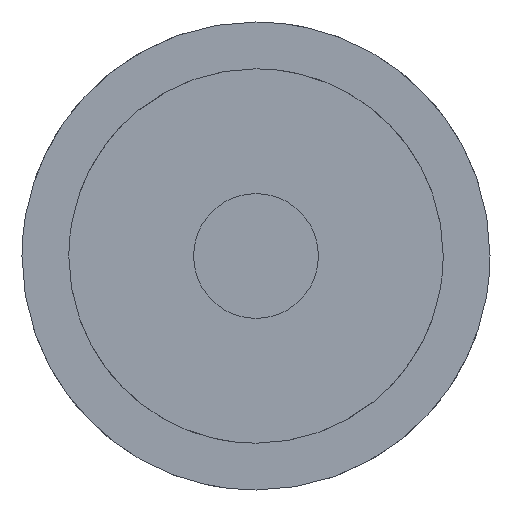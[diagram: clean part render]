
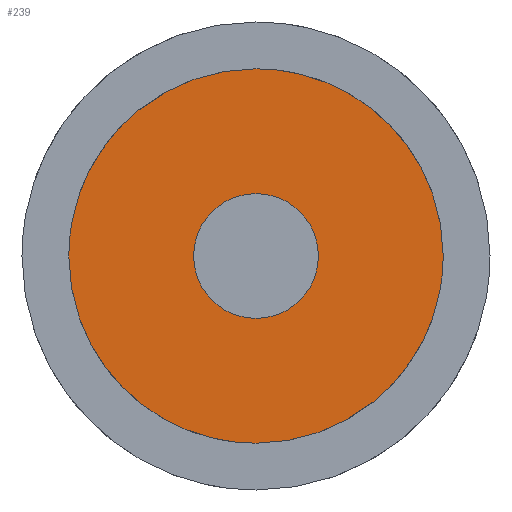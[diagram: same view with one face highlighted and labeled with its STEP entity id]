
A CAD part, front view. The second image highlights one B-rep face of the part: STEP entity #239.
In plain terms, the highlighted planar face has unit normal (0, -1, 0).
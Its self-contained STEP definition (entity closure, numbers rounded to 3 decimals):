
#63=CARTESIAN_POINT('Vertex',(0.,-217.,6.)) ;
#66=CARTESIAN_POINT('Axis2P3D Location',(0.,-217.,0.)) ;
#70=CARTESIAN_POINT('Vertex',(-6.,-217.,0.)) ;
#73=CARTESIAN_POINT('Axis2P3D Location',(0.,-217.,0.)) ;
#77=CARTESIAN_POINT('Vertex',(0.,-217.,-6.)) ;
#113=CARTESIAN_POINT('Axis2P3D Location',(0.,-217.,0.)) ;
#117=CARTESIAN_POINT('Vertex',(6.,-217.,0.)) ;
#120=CARTESIAN_POINT('Axis2P3D Location',(0.,-217.,0.)) ;
#146=CARTESIAN_POINT('Axis2P3D Location',(18.,-217.,0.)) ;
#152=CARTESIAN_POINT('Control Point',(18.,-217.,0.)) ;
#153=CARTESIAN_POINT('Control Point',(18.,-217.,1.663)) ;
#154=CARTESIAN_POINT('Control Point',(17.808,-217.,3.326)) ;
#155=CARTESIAN_POINT('Control Point',(17.424,-217.,4.959)) ;
#156=CARTESIAN_POINT('Control Point',(16.286,-217.,8.107)) ;
#157=CARTESIAN_POINT('Control Point',(14.46,-217.,10.913)) ;
#158=CARTESIAN_POINT('Control Point',(13.388,-217.,12.204)) ;
#159=CARTESIAN_POINT('Control Point',(10.967,-217.,14.515)) ;
#160=CARTESIAN_POINT('Control Point',(8.082,-217.,16.213)) ;
#161=CARTESIAN_POINT('Control Point',(6.547,-217.,16.891)) ;
#162=CARTESIAN_POINT('Control Point',(4.307,-217.,17.585)) ;
#163=CARTESIAN_POINT('Control Point',(1.998,-217.,17.907)) ;
#164=CARTESIAN_POINT('Control Point',(1.333,-217.,17.969)) ;
#165=CARTESIAN_POINT('Control Point',(0.667,-217.,18.)) ;
#166=CARTESIAN_POINT('Control Point',(0.,-217.,18.)) ;
#167=CARTESIAN_POINT('Vertex',(18.,-217.,0.)) ;
#169=CARTESIAN_POINT('Vertex',(0.,-217.,18.)) ;
#173=CARTESIAN_POINT('Control Point',(0.,-217.,18.)) ;
#174=CARTESIAN_POINT('Control Point',(-0.996,-217.,18.)) ;
#175=CARTESIAN_POINT('Control Point',(-1.992,-217.,17.931)) ;
#176=CARTESIAN_POINT('Control Point',(-2.982,-217.,17.793)) ;
#177=CARTESIAN_POINT('Control Point',(-5.59,-217.,17.244)) ;
#178=CARTESIAN_POINT('Control Point',(-8.064,-217.,16.222)) ;
#179=CARTESIAN_POINT('Control Point',(-9.53,-217.,15.406)) ;
#180=CARTESIAN_POINT('Control Point',(-12.248,-217.,13.451)) ;
#181=CARTESIAN_POINT('Control Point',(-14.448,-217.,10.928)) ;
#182=CARTESIAN_POINT('Control Point',(-15.397,-217.,9.545)) ;
#183=CARTESIAN_POINT('Control Point',(-16.804,-217.,6.877)) ;
#184=CARTESIAN_POINT('Control Point',(-17.63,-217.,3.984)) ;
#185=CARTESIAN_POINT('Control Point',(-17.877,-217.,2.666)) ;
#186=CARTESIAN_POINT('Control Point',(-18.,-217.,1.333)) ;
#187=CARTESIAN_POINT('Control Point',(-18.,-217.,0.)) ;
#188=CARTESIAN_POINT('Vertex',(-18.,-217.,0.)) ;
#192=CARTESIAN_POINT('Control Point',(-18.,-217.,0.)) ;
#193=CARTESIAN_POINT('Control Point',(-18.,-217.,-1.663)) ;
#194=CARTESIAN_POINT('Control Point',(-17.808,-217.,-3.326)) ;
#195=CARTESIAN_POINT('Control Point',(-17.424,-217.,-4.959)) ;
#196=CARTESIAN_POINT('Control Point',(-16.286,-217.,-8.107)) ;
#197=CARTESIAN_POINT('Control Point',(-14.46,-217.,-10.913)) ;
#198=CARTESIAN_POINT('Control Point',(-13.388,-217.,-12.204)) ;
#199=CARTESIAN_POINT('Control Point',(-10.967,-217.,-14.515)) ;
#200=CARTESIAN_POINT('Control Point',(-8.082,-217.,-16.213)) ;
#201=CARTESIAN_POINT('Control Point',(-6.547,-217.,-16.891)) ;
#202=CARTESIAN_POINT('Control Point',(-4.307,-217.,-17.585)) ;
#203=CARTESIAN_POINT('Control Point',(-1.998,-217.,-17.907)) ;
#204=CARTESIAN_POINT('Control Point',(-1.333,-217.,-17.969)) ;
#205=CARTESIAN_POINT('Control Point',(-0.667,-217.,-18.)) ;
#206=CARTESIAN_POINT('Control Point',(0.,-217.,-18.)) ;
#207=CARTESIAN_POINT('Vertex',(0.,-217.,-18.)) ;
#211=CARTESIAN_POINT('Control Point',(0.,-217.,-18.)) ;
#212=CARTESIAN_POINT('Control Point',(0.996,-217.,-18.)) ;
#213=CARTESIAN_POINT('Control Point',(1.992,-217.,-17.931)) ;
#214=CARTESIAN_POINT('Control Point',(2.982,-217.,-17.793)) ;
#215=CARTESIAN_POINT('Control Point',(5.59,-217.,-17.244)) ;
#216=CARTESIAN_POINT('Control Point',(8.064,-217.,-16.222)) ;
#217=CARTESIAN_POINT('Control Point',(9.53,-217.,-15.406)) ;
#218=CARTESIAN_POINT('Control Point',(12.248,-217.,-13.451)) ;
#219=CARTESIAN_POINT('Control Point',(14.448,-217.,-10.928)) ;
#220=CARTESIAN_POINT('Control Point',(15.397,-217.,-9.545)) ;
#221=CARTESIAN_POINT('Control Point',(16.804,-217.,-6.877)) ;
#222=CARTESIAN_POINT('Control Point',(17.63,-217.,-3.984)) ;
#223=CARTESIAN_POINT('Control Point',(17.877,-217.,-2.666)) ;
#224=CARTESIAN_POINT('Control Point',(18.,-217.,-1.333)) ;
#225=CARTESIAN_POINT('Control Point',(18.,-217.,0.)) ;
#67=DIRECTION('Axis2P3D Direction',(0.,1.,0.)) ;
#74=DIRECTION('Axis2P3D Direction',(0.,1.,0.)) ;
#114=DIRECTION('Axis2P3D Direction',(0.,1.,0.)) ;
#121=DIRECTION('Axis2P3D Direction',(0.,1.,0.)) ;
#147=DIRECTION('Axis2P3D Direction',(0.,1.,0.)) ;
#148=DIRECTION('Axis2P3D XDirection',(0.,-0.,1.)) ;
#68=AXIS2_PLACEMENT_3D('Circle Axis2P3D',#66,#67,$) ;
#75=AXIS2_PLACEMENT_3D('Circle Axis2P3D',#73,#74,$) ;
#115=AXIS2_PLACEMENT_3D('Circle Axis2P3D',#113,#114,$) ;
#122=AXIS2_PLACEMENT_3D('Circle Axis2P3D',#120,#121,$) ;
#149=AXIS2_PLACEMENT_3D('Plane Axis2P3D',#146,#147,#148) ;
#228=ORIENTED_EDGE('',*,*,#171,.T.) ;
#229=ORIENTED_EDGE('',*,*,#190,.T.) ;
#230=ORIENTED_EDGE('',*,*,#209,.T.) ;
#231=ORIENTED_EDGE('',*,*,#226,.T.) ;
#234=ORIENTED_EDGE('',*,*,#119,.F.) ;
#235=ORIENTED_EDGE('',*,*,#79,.F.) ;
#236=ORIENTED_EDGE('',*,*,#72,.F.) ;
#237=ORIENTED_EDGE('',*,*,#124,.F.) ;
#238=FACE_BOUND('',#233,.T.) ;
#239=ADVANCED_FACE('D995-2',(#232,#238),#150,.F.) ;
#151=B_SPLINE_CURVE_WITH_KNOTS('',5,(#152,#153,#154,#155,#156,#157,#158,#159,#160,#161,#162,#163,#164,#165,#166),.UNSPECIFIED.,.F.,.U.,(6,3,3,3,6),(0.,11.757,23.515,35.272,39.986),.UNSPECIFIED.) ;
#172=B_SPLINE_CURVE_WITH_KNOTS('',5,(#173,#174,#175,#176,#177,#178,#179,#180,#181,#182,#183,#184,#185,#186,#187),.UNSPECIFIED.,.F.,.U.,(6,3,3,3,6),(39.986,47.03,58.787,70.545,79.971),.UNSPECIFIED.) ;
#191=B_SPLINE_CURVE_WITH_KNOTS('',5,(#192,#193,#194,#195,#196,#197,#198,#199,#200,#201,#202,#203,#204,#205,#206),.UNSPECIFIED.,.F.,.U.,(6,3,3,3,6),(0.,11.757,23.515,35.272,39.986),.UNSPECIFIED.) ;
#210=B_SPLINE_CURVE_WITH_KNOTS('',5,(#211,#212,#213,#214,#215,#216,#217,#218,#219,#220,#221,#222,#223,#224,#225),.UNSPECIFIED.,.F.,.U.,(6,3,3,3,6),(39.986,47.03,58.787,70.545,79.971),.UNSPECIFIED.) ;
#69=CIRCLE('generated circle',#68,6.) ;
#76=CIRCLE('generated circle',#75,6.) ;
#116=CIRCLE('generated circle',#115,6.) ;
#123=CIRCLE('generated circle',#122,6.) ;
#72=EDGE_CURVE('',#64,#71,#69,.F.) ;
#79=EDGE_CURVE('',#71,#78,#76,.F.) ;
#119=EDGE_CURVE('',#78,#118,#116,.F.) ;
#124=EDGE_CURVE('',#118,#64,#123,.F.) ;
#171=EDGE_CURVE('',#168,#170,#151,.T.) ;
#190=EDGE_CURVE('',#170,#189,#172,.T.) ;
#209=EDGE_CURVE('',#189,#208,#191,.T.) ;
#226=EDGE_CURVE('',#208,#168,#210,.T.) ;
#227=EDGE_LOOP('',(#228,#229,#230,#231)) ;
#233=EDGE_LOOP('',(#234,#235,#236,#237)) ;
#232=FACE_OUTER_BOUND('',#227,.T.) ;
#150=PLANE('Plane',#149) ;
#64=VERTEX_POINT('',#63) ;
#71=VERTEX_POINT('',#70) ;
#78=VERTEX_POINT('',#77) ;
#118=VERTEX_POINT('',#117) ;
#168=VERTEX_POINT('',#167) ;
#170=VERTEX_POINT('',#169) ;
#189=VERTEX_POINT('',#188) ;
#208=VERTEX_POINT('',#207) ;
